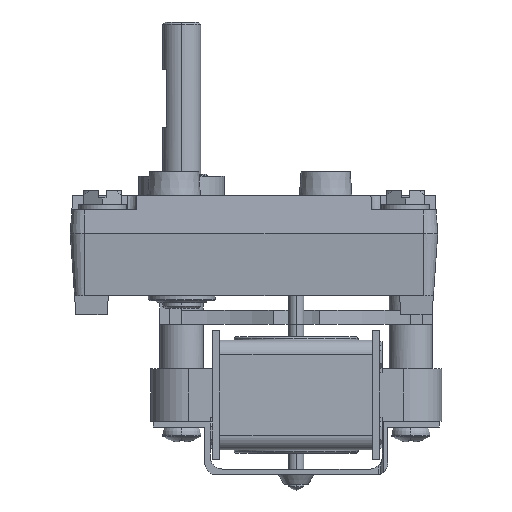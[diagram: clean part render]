
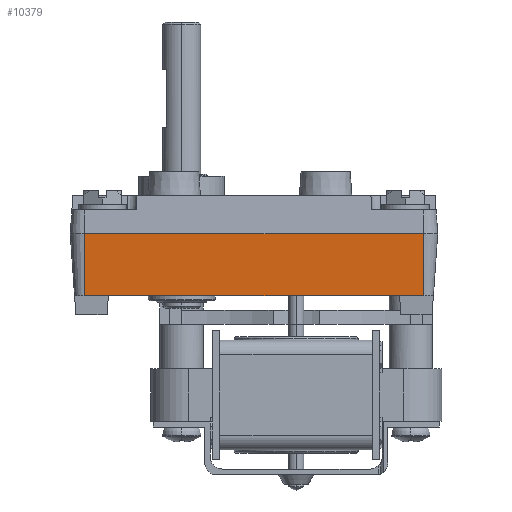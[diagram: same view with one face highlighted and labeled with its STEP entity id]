
A CAD part, left-side view. The second image highlights one B-rep face of the part: STEP entity #10379.
In plain terms, the highlighted planar face has unit normal (-0.998, 0, -0.07).
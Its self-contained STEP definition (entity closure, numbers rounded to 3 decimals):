
#33 = CARTESIAN_POINT ( 'NONE',  ( 0., 3., 0. ) ) ;
#1872 = CARTESIAN_POINT ( 'NONE',  ( 0., 74., 0. ) ) ;
#2332 = CARTESIAN_POINT ( 'NONE',  ( 0.909, 74., -13. ) ) ;
#3706 = AXIS2_PLACEMENT_3D ( 'NONE', #18639, #6768, #13461 ) ;
#4711 = DIRECTION ( 'NONE',  ( -0.07, 0., 0.998 ) ) ;
#5165 = VERTEX_POINT ( 'NONE', #16749 ) ;
#5368 = VERTEX_POINT ( 'NONE', #2332 ) ;
#5735 = ORIENTED_EDGE ( 'NONE', *, *, #12464, .F. ) ;
#6086 = ORIENTED_EDGE ( 'NONE', *, *, #10752, .T. ) ;
#6147 = CARTESIAN_POINT ( 'NONE',  ( 0.909, 74., -13. ) ) ;
#6768 = DIRECTION ( 'NONE',  ( -0.998, 0., -0.07 ) ) ;
#6796 = FACE_OUTER_BOUND ( 'NONE', #20676, .T. ) ;
#6924 = EDGE_CURVE ( 'NONE', #5368, #12668, #8719, .T. ) ;
#7389 = LINE ( 'NONE', #15699, #21480 ) ;
#7697 = EDGE_CURVE ( 'NONE', #5165, #17171, #7389, .T. ) ;
#7942 = VECTOR ( 'NONE', #11177, 1000. ) ;
#8398 = DIRECTION ( 'NONE',  ( -0.07, 0., 0.998 ) ) ;
#8719 = LINE ( 'NONE', #6147, #7942 ) ;
#10379 = ADVANCED_FACE ( 'NONE', ( #6796 ), #16643, .T. ) ;
#10752 = EDGE_CURVE ( 'NONE', #12668, #17171, #12500, .T. ) ;
#11177 = DIRECTION ( 'NONE',  ( 0., -1., 0. ) ) ;
#12464 = EDGE_CURVE ( 'NONE', #5368, #5165, #16309, .T. ) ;
#12500 = LINE ( 'NONE', #33, #14050 ) ;
#12668 = VERTEX_POINT ( 'NONE', #14598 ) ;
#12971 = ORIENTED_EDGE ( 'NONE', *, *, #7697, .F. ) ;
#13461 = DIRECTION ( 'NONE',  ( 0.07, 0., -0.998 ) ) ;
#13872 = ORIENTED_EDGE ( 'NONE', *, *, #6924, .T. ) ;
#14050 = VECTOR ( 'NONE', #4711, 1000. ) ;
#14598 = CARTESIAN_POINT ( 'NONE',  ( 0.909, 3., -13. ) ) ;
#15026 = VECTOR ( 'NONE', #8398, 1000. ) ;
#15699 = CARTESIAN_POINT ( 'NONE',  ( 0., 3., 0. ) ) ;
#15765 = DIRECTION ( 'NONE',  ( 0., -1., 0. ) ) ;
#16309 = LINE ( 'NONE', #1872, #15026 ) ;
#16643 = PLANE ( 'NONE',  #3706 ) ;
#16749 = CARTESIAN_POINT ( 'NONE',  ( 0., 74., 0. ) ) ;
#17171 = VERTEX_POINT ( 'NONE', #18862 ) ;
#18639 = CARTESIAN_POINT ( 'NONE',  ( 0., 3., 0. ) ) ;
#18862 = CARTESIAN_POINT ( 'NONE',  ( 0., 3., 0. ) ) ;
#20676 = EDGE_LOOP ( 'NONE', ( #12971, #5735, #13872, #6086 ) ) ;
#21480 = VECTOR ( 'NONE', #15765, 1000. ) ;
